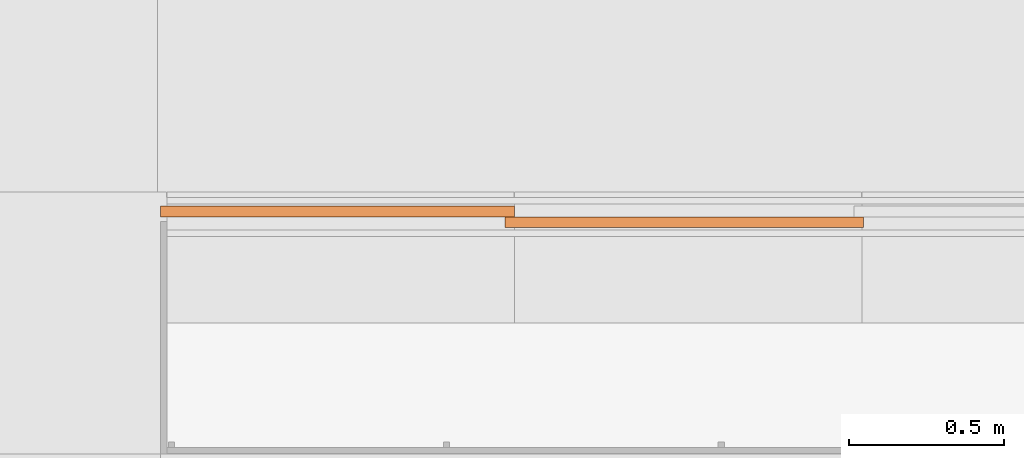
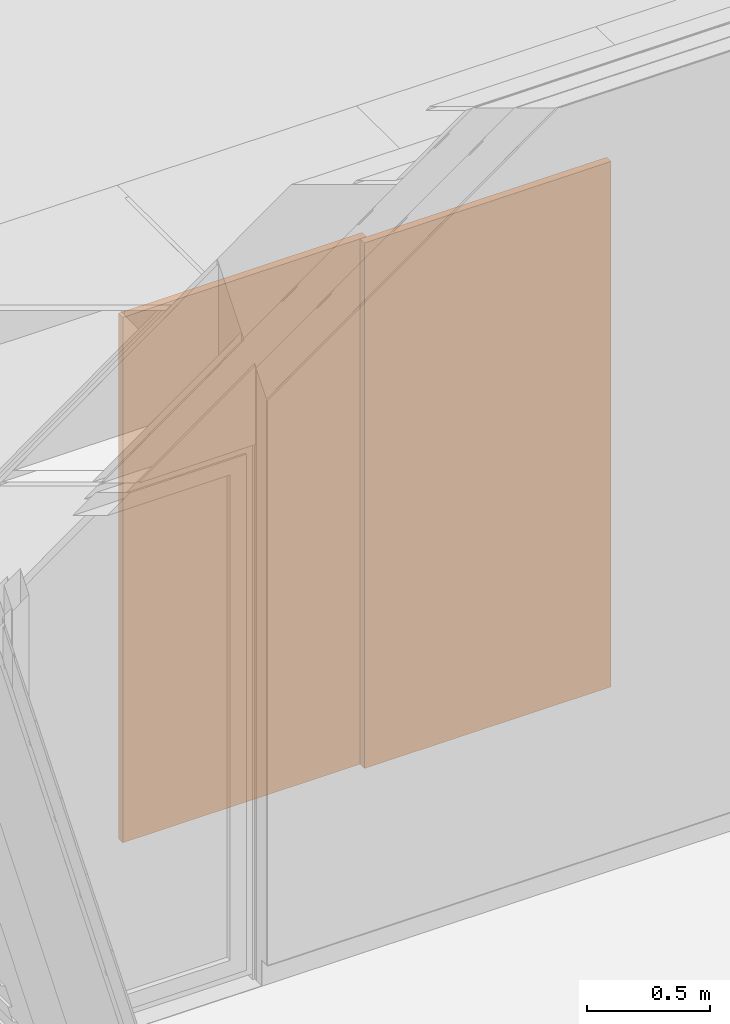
# One storey, part 114 of 137: 2 proxies.
"""IFC2X3 building model written with IfcOpenShell, lengths in millimetres."""

from ifc_helpers import new_model, entity, si_unit, converted_unit, derived_unit, money_unit, direction, frame, origin_with_axes, place, context, subcontext, project, spatial, faceted_brep, source, transform, mapped, type_object, type_shapes, element, save


model = new_model("IFC2X3")

# Units and contexts
model_context = context("Model", 3, precision=0.01, world=origin_with_axes(), true_north=direction((0.0, 1.0)))
body_context = subcontext(model_context, "Body", "Model", "MODEL_VIEW")
ifc_project = project(units=[si_unit("LENGTHUNIT", "METRE", prefix="MILLI"), si_unit("AREAUNIT", "SQUARE_METRE"), si_unit("VOLUMEUNIT", "CUBIC_METRE"), converted_unit("PLANEANGLEUNIT", "DEGREE", entity("IfcPlaneAngleMeasure", 0.0174532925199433), si_unit("PLANEANGLEUNIT", "RADIAN"), dimensions=[0, 0, 0, 0, 0, 0, 0]), money_unit("EUR"), converted_unit("TIMEUNIT", "Year", entity("IfcTimeMeasure", 31556926.0), si_unit("TIMEUNIT", "SECOND"), dimensions=[0, 0, 1, 0, 0, 0, 0]), si_unit("MASSUNIT", "GRAM", prefix="KILO"), si_unit("THERMODYNAMICTEMPERATUREUNIT", "DEGREE_CELSIUS"), si_unit("LUMINOUSINTENSITYUNIT", "LUMEN"), si_unit("ENERGYUNIT", "JOULE", prefix="MEGA"), derived_unit("THERMALCONDUCTANCEUNIT", [(si_unit("POWERUNIT", "WATT"), 1), (si_unit("LENGTHUNIT", "METRE"), -1), (si_unit("THERMODYNAMICTEMPERATUREUNIT", "KELVIN"), -1)]), derived_unit("SPECIFICHEATCAPACITYUNIT", [(si_unit("ENERGYUNIT", "JOULE"), 1), (si_unit("MASSUNIT", "GRAM", prefix="KILO"), -1), (si_unit("THERMODYNAMICTEMPERATUREUNIT", "KELVIN"), -1)]), derived_unit("MASSDENSITYUNIT", [(si_unit("MASSUNIT", "GRAM", prefix="KILO"), 1), (si_unit("VOLUMEUNIT", "CUBIC_METRE"), -1)])], contexts=[model_context])

# Site, building, storey
site_placement = place(None, origin_with_axes())
site = spatial("IfcSite", under=ifc_project, at=site_placement, Name="Site", CompositionType="ELEMENT")
building_placement = place(site_placement, origin_with_axes())
building = spatial("IfcBuilding", under=site, at=building_placement, Name="Naam gebouw", CompositionType="ELEMENT")
storey_placement = place(building_placement, frame((0.0, 0.0, 3960.0), z_axis=(0.0, 0.0, 1.0), x_axis=(1.0, 0.0, 0.0)))
storey = spatial("IfcBuildingStorey", under=building, at=storey_placement, Name="1e verdieping", CompositionType="ELEMENT", Elevation=3960.0)

# Proxies
building_element_proxy_type = type_object("IfcBuildingElementProxyType", Name="gevelbekleding", PredefinedType="NOTDEFINED")
shared_shape_1 = source(origin_with_axes(), body_context, "Body", "Brep", [
    faceted_brep([(570.0000707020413, 0.0, 0.0), (570.0000707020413, -35.0, 0.0), (565.0000707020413, -35.0, 0.0), (565.0000707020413, 0.0, 0.0), (570.0000707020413, 0.0, 2600.0), (570.0000707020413, -35.0, 2600.0), (565.0000707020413, -35.0, 2600.0), (565.0000707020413, 0.0, 2600.0)], [[[0, 1, 2, 3]], [[4, 5, 1, 0]], [[1, 5, 6, 2]], [[3, 2, 6, 7]], [[0, 3, 7, 4]], [[7, 6, 5, 4]]]),
    faceted_brep([(-570.0000707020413, 0.0, 0.0), (-570.0000707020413, -35.0, 0.0), (-570.0000707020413, -35.0, 2600.0), (-570.0000707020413, 0.0, 2600.0), (-565.0000707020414, 0.0, 0.0), (-565.0000707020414, -35.0, 0.0), (-565.0000707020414, -35.0, 2600.0), (-565.0000707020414, 0.0, 2600.0)], [[[0, 1, 2, 3]], [[4, 5, 1, 0]], [[1, 5, 6, 2]], [[3, 2, 6, 7]], [[0, 3, 7, 4]], [[7, 6, 5, 4]]]),
    faceted_brep([(570.0000707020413, 0.0, 0.0), (570.0000707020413, -35.0, 0.0), (-570.0000707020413, -35.0, 0.0), (-570.0000707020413, 0.0, 0.0), (570.0000707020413, 0.0, 2600.0), (570.0000707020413, -35.0, 2600.0), (-570.0000707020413, -35.0, 2600.0), (-570.0000707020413, 0.0, 2600.0)], [[[0, 1, 2, 3]], [[4, 5, 1, 0]], [[1, 5, 6, 2]], [[3, 2, 6, 7]], [[0, 3, 7, 4]], [[7, 6, 5, 4]]]),
])
proxy_1_placement = place(storey_placement, frame((1354.000004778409, 7793.999661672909, 0.0), z_axis=(0.0, 0.0, 1.0), x_axis=(1.0, 0.0, 0.0)))
element("IfcBuildingElementProxy", 1, at=proxy_1_placement, inside=storey, type_object=building_element_proxy_type, Name="_-", context=body_context, shape_type="MappedRepresentation", body=[
    mapped(shared_shape_1, transform((570.0000707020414, 0.0, 0.0))),
])
shared_shape_2 = source(origin_with_axes(), body_context, "Body", "Brep", [
    faceted_brep([(-577.5, 0.0, 0.0), (-572.5, 0.0, 0.0), (-572.5, -35.0, 0.0), (-577.5, -35.0, 0.0), (-577.5, 0.0, 2600.0), (-572.5, 0.0, 2600.0), (-572.5, -35.0, 2600.0), (-577.5, -35.0, 2600.0)], [[[0, 1, 2, 3]], [[0, 4, 5, 1]], [[1, 5, 6, 2]], [[3, 2, 6, 7]], [[4, 0, 3, 7]], [[5, 4, 7, 6]]]),
    faceted_brep([(577.5, 0.0, 0.0), (577.5, 0.0, 2600.0), (577.5, -35.0, 2600.0), (577.5, -35.0, 0.0), (572.5000000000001, 0.0, 0.0), (572.5000000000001, 0.0, 2600.0), (572.5000000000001, -35.0, 2600.0), (572.5000000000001, -35.0, 0.0)], [[[0, 1, 2, 3]], [[0, 4, 5, 1]], [[1, 5, 6, 2]], [[3, 2, 6, 7]], [[4, 0, 3, 7]], [[5, 4, 7, 6]]]),
    faceted_brep([(-577.5, 0.0, 0.0), (577.5, 0.0, 0.0), (577.5, -35.0, 0.0), (-577.5, -35.0, 0.0), (-577.5, 0.0, 2600.0), (577.5, 0.0, 2600.0), (577.5, -35.0, 2600.0), (-577.5, -35.0, 2600.0)], [[[0, 1, 2, 3]], [[0, 4, 5, 1]], [[1, 5, 6, 2]], [[3, 2, 6, 7]], [[4, 0, 3, 7]], [[5, 4, 7, 6]]]),
])
type_shapes(building_element_proxy_type, [shared_shape_1, shared_shape_2])
proxy_2_placement = place(storey_placement, frame((2464.000075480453, 7793.999661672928, 0.0), z_axis=(0.0, 0.0, 1.0), x_axis=(1.0, 0.0, 0.0)))
element("IfcBuildingElementProxy", 2, at=proxy_2_placement, inside=storey, type_object=building_element_proxy_type, Name="_-", context=body_context, shape_type="MappedRepresentation", body=[
    mapped(shared_shape_2, transform((577.4999999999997, -34.99999999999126, 0.0))),
])

save(model, "model.ifc")
